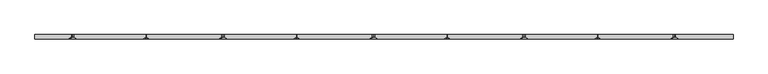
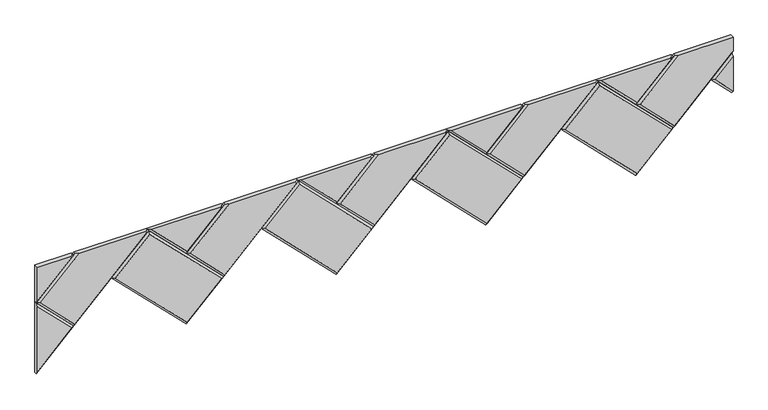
"""IFC4 building model written with IfcOpenShell, lengths in millimetres: proxy geometry, Wall_Wisteria 6.3dm."""

from ifc_helpers import new_model, si_unit, origin, place, context, project, spatial, faceted_brep, source, transform, mapped, element, save


def generic_models_c7b8c421(model_context):
    return source(origin(), model_context, "Body", "Brep", [
        faceted_brep([(8055.3664856, 6.0, 2688.4609368), (8055.3664856, 12.0, 2688.4609368), (8163.1295591, 12.0, 2580.6978633), (8163.1295591, 6.0, 2580.6978633), (8378.655706, 12.0, 2796.2240102), (8378.655706, 6.0, 2796.2240102), (8163.1295591, 0.0, 2589.1831447), (8063.851767, 0.0, 2688.4609368), (8370.1704246, 0.0, 2796.2240102), (8166.9055488, 12.0, 2800.0), (8374.8797162, 12.0, 2800.0), (8374.8797162, 6.0, 2800.0), (8166.9055488, 6.0, 2800.0), (8175.3908302, 0.0, 2800.0), (8366.3944348, 0.0, 2800.0)], [[[0, 1, 2, 3]], [[3, 2, 4, 5]], [[0, 3, 6, 7]], [[3, 5, 8, 6]], [[9, 10, 4, 2, 1]], [[11, 5, 4, 10]], [[9, 1, 0, 12]], [[13, 7, 6, 8, 14]], [[14, 8, 5, 11]], [[12, 0, 7, 13]], [[9, 12, 13, 14, 11, 10]]]),
        faceted_brep([(8486.4187794, 6.0, 2688.4609368), (8486.4187794, 12.0, 2688.4609368), (8594.1818529, 12.0, 2796.2240102), (8594.1818529, 6.0, 2796.2240102), (8585.6965715, 0.0, 2796.2240102), (8486.4187794, 0.0, 2696.9462181), (8374.8797162, 12.0, 2800.0), (8590.4058631, 12.0, 2800.0), (8590.4058631, 6.0, 2800.0), (8374.8797162, 6.0, 2800.0), (8383.3649976, 0.0, 2800.0), (8581.9205817, 0.0, 2800.0)], [[[0, 1, 2, 3]], [[0, 3, 4, 5]], [[6, 7, 2, 1]], [[8, 3, 2, 7]], [[6, 1, 0, 9]], [[10, 5, 4, 11]], [[11, 4, 3, 8]], [[9, 0, 5, 10]], [[6, 9, 10, 11, 8, 7]]]),
        faceted_brep([(8486.4187794, 12.0, 2472.9347899), (8270.8926325, 12.0, 2688.4609368), (8378.655706, 12.0, 2796.2240102), (8594.1818529, 12.0, 2580.6978633), (8486.4187794, 6.0, 2472.9347899), (8594.1818529, 6.0, 2580.6978633), (8378.655706, 6.0, 2796.2240102), (8270.8926325, 6.0, 2688.4609368), (8378.655706, 0.0, 2787.7387288), (8279.3779139, 0.0, 2688.4609368), (8486.4187794, 0.0, 2481.4200712), (8585.6965715, 0.0, 2580.6978633)], [[[0, 1, 2, 3]], [[4, 0, 3, 5]], [[5, 3, 2, 6]], [[6, 2, 1, 7]], [[7, 1, 0, 4]], [[8, 9, 10, 11]], [[4, 5, 11, 10]], [[5, 6, 8, 11]], [[6, 7, 9, 8]], [[7, 4, 10, 9]]]),
        faceted_brep([(8762.2096042, 12.0, 2628.1962589), (8701.9449263, 12.0, 2688.4609368), (8762.2096042, 12.0, 2748.7256146), (8762.2096042, 6.0, 2748.7256146), (8701.9449263, 6.0, 2688.4609368), (8762.2096042, 6.0, 2628.1962589), (8762.2096042, 0.0, 2636.6815403), (8762.2096042, 0.0, 2740.2403332), (8710.4302077, 0.0, 2688.4609368)], [[[0, 1, 2]], [[3, 2, 1, 4]], [[0, 5, 4, 1]], [[6, 7, 8]], [[7, 3, 4, 8]], [[5, 6, 8, 4]], [[0, 2, 3, 7, 6, 5]]]),
        faceted_brep([(8762.2096042, 12.0, 2748.7256146), (8594.1818529, 12.0, 2580.6978633), (8486.4187794, 12.0, 2688.4609368), (8597.9578427, 12.0, 2800.0), (8762.2096042, 12.0, 2800.0), (8486.4187794, 6.0, 2688.4609368), (8594.1818529, 6.0, 2580.6978633), (8762.2096042, 6.0, 2748.7256146), (8594.1818529, 0.0, 2589.1831447), (8494.9040608, 0.0, 2688.4609368), (8762.2096042, 0.0, 2757.210896), (8606.443124, 0.0, 2800.0), (8762.2096042, 0.0, 2800.0), (8597.9578427, 6.0, 2800.0)], [[[0, 1, 2, 3, 4]], [[5, 2, 1, 6]], [[0, 7, 6, 1]], [[5, 6, 8, 9]], [[7, 10, 8, 6]], [[11, 12, 4, 3, 13]], [[3, 2, 5, 13]], [[11, 9, 8, 10, 12]], [[13, 5, 9, 11]], [[0, 4, 12, 10, 7]]]),
        faceted_brep([(7624.3141918, 12.0, 2472.9347899), (7408.7880449, 12.0, 2688.4609368), (7516.5511183, 12.0, 2796.2240102), (7732.0772652, 12.0, 2580.6978633), (7624.3141918, 6.0, 2472.9347899), (7732.0772652, 6.0, 2580.6978633), (7516.5511183, 6.0, 2796.2240102), (7408.7880449, 6.0, 2688.4609368), (7516.5511183, 0.0, 2787.7387288), (7417.2733263, 0.0, 2688.4609368), (7624.3141918, 0.0, 2481.4200712), (7723.5919839, 0.0, 2580.6978633)], [[[0, 1, 2, 3]], [[4, 0, 3, 5]], [[5, 3, 2, 6]], [[6, 2, 1, 7]], [[7, 1, 0, 4]], [[8, 9, 10, 11]], [[4, 5, 11, 10]], [[5, 6, 8, 11]], [[6, 7, 9, 8]], [[7, 4, 10, 9]]]),
        faceted_brep([(7193.261898, 6.0, 2688.4609368), (7193.261898, 12.0, 2688.4609368), (7301.0249714, 12.0, 2580.6978633), (7301.0249714, 6.0, 2580.6978633), (7516.5511183, 12.0, 2796.2240102), (7516.5511183, 6.0, 2796.2240102), (7301.0249714, 0.0, 2589.1831447), (7201.7471794, 0.0, 2688.4609368), (7508.065837, 0.0, 2796.2240102), (7304.8009612, 12.0, 2800.0), (7512.7751286, 12.0, 2800.0), (7512.7751286, 6.0, 2800.0), (7304.8009612, 6.0, 2800.0), (7313.2862426, 0.0, 2800.0), (7504.2898472, 0.0, 2800.0)], [[[0, 1, 2, 3]], [[3, 2, 4, 5]], [[0, 3, 6, 7]], [[3, 5, 8, 6]], [[9, 10, 4, 2, 1]], [[11, 5, 4, 10]], [[9, 1, 0, 12]], [[13, 7, 6, 8, 14]], [[14, 8, 5, 11]], [[12, 0, 7, 13]], [[9, 12, 13, 14, 11, 10]]]),
        faceted_brep([(8055.3664856, 12.0, 2472.9347899), (7839.8403387, 12.0, 2688.4609368), (7947.6034122, 12.0, 2796.2240102), (8163.1295591, 12.0, 2580.6978633), (8055.3664856, 6.0, 2472.9347899), (8163.1295591, 6.0, 2580.6978633), (7947.6034122, 6.0, 2796.2240102), (7839.8403387, 6.0, 2688.4609368), (7947.6034122, 0.0, 2787.7387288), (7848.3256201, 0.0, 2688.4609368), (8055.3664856, 0.0, 2481.4200712), (8154.6442777, 0.0, 2580.6978633)], [[[0, 1, 2, 3]], [[4, 0, 3, 5]], [[5, 3, 2, 6]], [[6, 2, 1, 7]], [[7, 1, 0, 4]], [[8, 9, 10, 11]], [[4, 5, 11, 10]], [[5, 6, 8, 11]], [[6, 7, 9, 8]], [[7, 4, 10, 9]]]),
        faceted_brep([(7624.3141918, 6.0, 2688.4609368), (7624.3141918, 12.0, 2688.4609368), (7732.0772652, 12.0, 2580.6978633), (7732.0772652, 6.0, 2580.6978633), (7947.6034122, 12.0, 2796.2240102), (7947.6034122, 6.0, 2796.2240102), (7732.0772652, 0.0, 2589.1831447), (7632.7994732, 0.0, 2688.4609368), (7939.1181308, 0.0, 2796.2240102), (7735.853255, 12.0, 2800.0), (7943.8274224, 12.0, 2800.0), (7943.8274224, 6.0, 2800.0), (7735.853255, 6.0, 2800.0), (7744.3385364, 0.0, 2800.0), (7935.342141, 0.0, 2800.0)], [[[0, 1, 2, 3]], [[3, 2, 4, 5]], [[0, 3, 6, 7]], [[3, 5, 8, 6]], [[9, 10, 4, 2, 1]], [[11, 5, 4, 10]], [[9, 1, 0, 12]], [[13, 7, 6, 8, 14]], [[14, 8, 5, 11]], [[12, 0, 7, 13]], [[9, 12, 13, 14, 11, 10]]]),
        faceted_brep([(7624.3141918, 6.0, 2688.4609368), (7624.3141918, 12.0, 2688.4609368), (7732.0772652, 12.0, 2796.2240102), (7732.0772652, 6.0, 2796.2240102), (7723.5919839, 0.0, 2796.2240102), (7624.3141918, 0.0, 2696.9462181), (7512.7751286, 12.0, 2800.0), (7728.3012755, 12.0, 2800.0), (7728.3012755, 6.0, 2800.0), (7512.7751286, 6.0, 2800.0), (7521.2604099, 0.0, 2800.0), (7719.8159941, 0.0, 2800.0)], [[[0, 1, 2, 3]], [[0, 3, 4, 5]], [[6, 7, 2, 1]], [[8, 3, 2, 7]], [[6, 1, 0, 9]], [[10, 5, 4, 11]], [[11, 4, 3, 8]], [[9, 0, 5, 10]], [[6, 9, 10, 11, 8, 7]]]),
        faceted_brep([(8055.3664856, 6.0, 2688.4609368), (8055.3664856, 12.0, 2688.4609368), (8163.1295591, 12.0, 2796.2240102), (8163.1295591, 6.0, 2796.2240102), (8154.6442777, 0.0, 2796.2240102), (8055.3664856, 0.0, 2696.9462181), (7943.8274224, 12.0, 2800.0), (8159.3535693, 12.0, 2800.0), (8159.3535693, 6.0, 2800.0), (7943.8274224, 6.0, 2800.0), (7952.3127037, 0.0, 2800.0), (8150.8682879, 0.0, 2800.0)], [[[0, 1, 2, 3]], [[0, 3, 4, 5]], [[6, 7, 2, 1]], [[8, 3, 2, 7]], [[6, 1, 0, 9]], [[10, 5, 4, 11]], [[11, 4, 3, 8]], [[9, 0, 5, 10]], [[6, 9, 10, 11, 8, 7]]]),
        faceted_brep([(7193.261898, 6.0, 2688.4609368), (7193.261898, 12.0, 2688.4609368), (7301.0249714, 12.0, 2796.2240102), (7301.0249714, 6.0, 2796.2240102), (7292.5396901, 0.0, 2796.2240102), (7193.261898, 0.0, 2696.9462181), (7081.7228347, 12.0, 2800.0), (7297.2489817, 12.0, 2800.0), (7297.2489817, 6.0, 2800.0), (7081.7228347, 6.0, 2800.0), (7090.2081161, 0.0, 2800.0), (7288.7637003, 0.0, 2800.0)], [[[0, 1, 2, 3]], [[0, 3, 4, 5]], [[6, 7, 2, 1]], [[8, 3, 2, 7]], [[6, 1, 0, 9]], [[10, 5, 4, 11]], [[11, 4, 3, 8]], [[9, 0, 5, 10]], [[6, 9, 10, 11, 8, 7]]]),
        faceted_brep([(6762.2096042, 12.0, 2688.4609368), (6869.9726776, 12.0, 2580.6978633), (6762.2096042, 12.0, 2472.9347899), (6762.2096042, 6.0, 2472.9347899), (6869.9726776, 6.0, 2580.6978633), (6762.2096042, 6.0, 2688.4609368), (6762.2096042, 0.0, 2679.9756554), (6762.2096042, 0.0, 2481.4200712), (6861.4873962, 0.0, 2580.6978633)], [[[0, 1, 2]], [[3, 2, 1, 4]], [[0, 5, 4, 1]], [[6, 7, 8]], [[3, 4, 8, 7]], [[5, 6, 8, 4]], [[0, 2, 3, 7, 6, 5]]]),
        faceted_brep([(7193.261898, 12.0, 2472.9347899), (6977.7357511, 12.0, 2688.4609368), (7085.4988245, 12.0, 2796.2240102), (7301.0249714, 12.0, 2580.6978633), (7193.261898, 6.0, 2472.9347899), (7301.0249714, 6.0, 2580.6978633), (7085.4988245, 6.0, 2796.2240102), (6977.7357511, 6.0, 2688.4609368), (7085.4988245, 0.0, 2787.7387288), (6986.2210324, 0.0, 2688.4609368), (7193.261898, 0.0, 2481.4200712), (7292.5396901, 0.0, 2580.6978633)], [[[0, 1, 2, 3]], [[4, 0, 3, 5]], [[5, 3, 2, 6]], [[6, 2, 1, 7]], [[7, 1, 0, 4]], [[8, 9, 10, 11]], [[4, 5, 11, 10]], [[5, 6, 8, 11]], [[6, 7, 9, 8]], [[7, 4, 10, 9]]]),
        faceted_brep([(6762.2096042, 6.0, 2688.4609368), (6762.2096042, 12.0, 2688.4609368), (6869.9726776, 12.0, 2580.6978633), (6869.9726776, 6.0, 2580.6978633), (7085.4988245, 12.0, 2796.2240102), (7085.4988245, 6.0, 2796.2240102), (6869.9726776, 0.0, 2589.1831447), (6770.6948855, 0.0, 2688.4609368), (7077.0135432, 0.0, 2796.2240102), (6873.7486674, 12.0, 2800.0), (7081.7228347, 12.0, 2800.0), (7081.7228347, 6.0, 2800.0), (6873.7486674, 6.0, 2800.0), (6882.2339488, 0.0, 2800.0), (7073.2375534, 0.0, 2800.0)], [[[0, 1, 2, 3]], [[3, 2, 4, 5]], [[0, 3, 6, 7]], [[3, 5, 8, 6]], [[9, 10, 4, 2, 1]], [[11, 5, 4, 10]], [[9, 1, 0, 12]], [[13, 7, 6, 8, 14]], [[14, 8, 5, 11]], [[12, 0, 7, 13]], [[12, 13, 14, 11, 10, 9]]]),
        faceted_brep([(6762.2096042, 12.0, 2800.0), (6866.1966878, 12.0, 2800.0), (6869.9726776, 12.0, 2796.2240102), (6762.2096042, 12.0, 2688.4609368), (6762.2096042, 6.0, 2688.4609368), (6869.9726776, 6.0, 2796.2240102), (6861.4873962, 0.0, 2796.2240102), (6762.2096042, 0.0, 2696.9462181), (6762.2096042, 0.0, 2800.0), (6857.7114065, 0.0, 2800.0), (6866.1966878, 6.0, 2800.0)], [[[0, 1, 2, 3]], [[4, 3, 2, 5]], [[4, 5, 6, 7]], [[8, 9, 10, 1, 0]], [[10, 5, 2, 1]], [[8, 7, 6, 9]], [[9, 6, 5, 10]], [[0, 3, 4, 7, 8]]]),
    ])


if __name__ == "__main__":
    model = new_model("IFC4")
    model_context = context("Model", 3, world=origin())
    ifc_project = project(units=[si_unit("LENGTHUNIT", "METRE", prefix="MILLI")], contexts=[model_context])
    site = spatial("IfcSite", under=ifc_project)
    building = spatial("IfcBuilding", under=site)
    placement = place(None, origin())
    generic_models_shape = generic_models_c7b8c421(model_context)
    element("IfcBuildingElementProxy", 1, Name="Wall_Wisteria 6.3dm", ObjectType="Wall_Wisteria 6.3dm", at=placement, inside=building, context=model_context, shape_type="MappedRepresentation", body=[
        mapped(generic_models_shape, transform((0.0, 0.0, 0.0), x_axis=(1.0, 0.0, 0.0), y_axis=(0.0, 1.0, 0.0), z_axis=(0.0, 0.0, 1.0))),
    ])
    save(model, "model.ifc")
